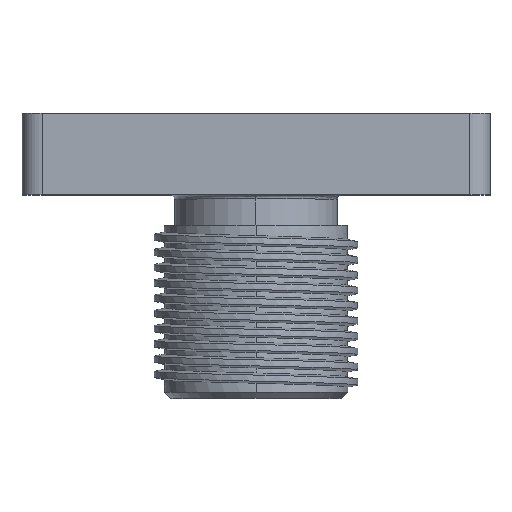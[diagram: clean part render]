
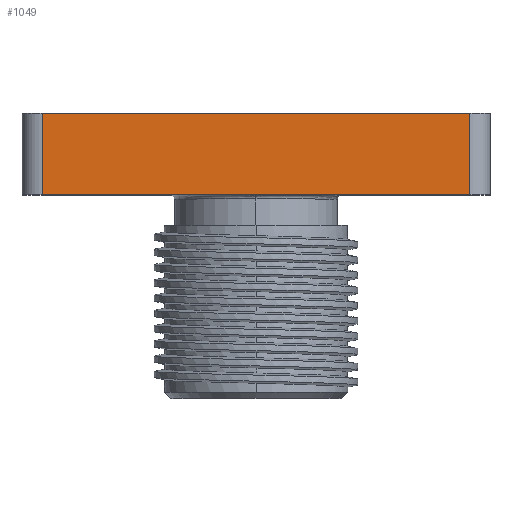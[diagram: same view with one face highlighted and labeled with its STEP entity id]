
A CAD part, top view. The second image highlights one B-rep face of the part: STEP entity #1049.
In plain terms, the highlighted planar face has unit normal (0, 0, 1).
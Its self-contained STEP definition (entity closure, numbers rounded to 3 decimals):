
#4 = CARTESIAN_POINT ( 'NONE',  ( 10.5, 2., 8.2 ) ) ;
#16 = CARTESIAN_POINT ( 'NONE',  ( 10.5, 0., 8.2 ) ) ;
#134 = PLANE ( 'NONE',  #2364 ) ;
#138 = DIRECTION ( 'NONE',  ( -1., 0., 0. ) ) ;
#142 = DIRECTION ( 'NONE',  ( 0., 0., -1. ) ) ;
#188 = EDGE_CURVE ( 'NONE', #3239, #2978, #1340, .T. ) ;
#189 = DIRECTION ( 'NONE',  ( 1., 0., 0. ) ) ;
#383 = ORIENTED_EDGE ( 'NONE', *, *, #2658, .F. ) ;
#524 = CARTESIAN_POINT ( 'NONE',  ( 0., 4., 8.2 ) ) ;
#756 = ORIENTED_EDGE ( 'NONE', *, *, #1658, .F. ) ;
#766 = VERTEX_POINT ( 'NONE', #3519 ) ;
#1049 = ADVANCED_FACE ( 'NONE', ( #1826 ), #134, .F. ) ;
#1212 = CARTESIAN_POINT ( 'NONE',  ( -10.5, 2., 8.2 ) ) ;
#1340 = LINE ( 'NONE', #524, #1345 ) ;
#1345 = VECTOR ( 'NONE', #189, 1000. ) ;
#1500 = DIRECTION ( 'NONE',  ( 0., 1., 0. ) ) ;
#1658 = EDGE_CURVE ( 'NONE', #766, #3432, #2203, .T. ) ;
#1826 = FACE_OUTER_BOUND ( 'NONE', #3150, .T. ) ;
#2177 = VECTOR ( 'NONE', #2869, 1000. ) ;
#2203 = LINE ( 'NONE', #3385, #2177 ) ;
#2364 = AXIS2_PLACEMENT_3D ( 'NONE', #16, #142, #138 ) ;
#2486 = EDGE_CURVE ( 'NONE', #3432, #3239, #2574, .T. ) ;
#2566 = VECTOR ( 'NONE', #1500, 1000. ) ;
#2574 = LINE ( 'NONE', #1212, #2566 ) ;
#2628 = LINE ( 'NONE', #4, #2633 ) ;
#2633 = VECTOR ( 'NONE', #3319, 1000. ) ;
#2654 = CARTESIAN_POINT ( 'NONE',  ( -10.5, 4., 8.2 ) ) ;
#2658 = EDGE_CURVE ( 'NONE', #2978, #766, #2628, .T. ) ;
#2688 = ORIENTED_EDGE ( 'NONE', *, *, #188, .F. ) ;
#2696 = CARTESIAN_POINT ( 'NONE',  ( -10.5, 0., 8.2 ) ) ;
#2869 = DIRECTION ( 'NONE',  ( -1., 0., 0. ) ) ;
#2978 = VERTEX_POINT ( 'NONE', #3193 ) ;
#3150 = EDGE_LOOP ( 'NONE', ( #383, #2688, #3166, #756 ) ) ;
#3166 = ORIENTED_EDGE ( 'NONE', *, *, #2486, .F. ) ;
#3193 = CARTESIAN_POINT ( 'NONE',  ( 10.5, 4., 8.2 ) ) ;
#3239 = VERTEX_POINT ( 'NONE', #2654 ) ;
#3319 = DIRECTION ( 'NONE',  ( 0., -1., 0. ) ) ;
#3385 = CARTESIAN_POINT ( 'NONE',  ( 0., 0., 8.2 ) ) ;
#3432 = VERTEX_POINT ( 'NONE', #2696 ) ;
#3519 = CARTESIAN_POINT ( 'NONE',  ( 10.5, 0., 8.2 ) ) ;
